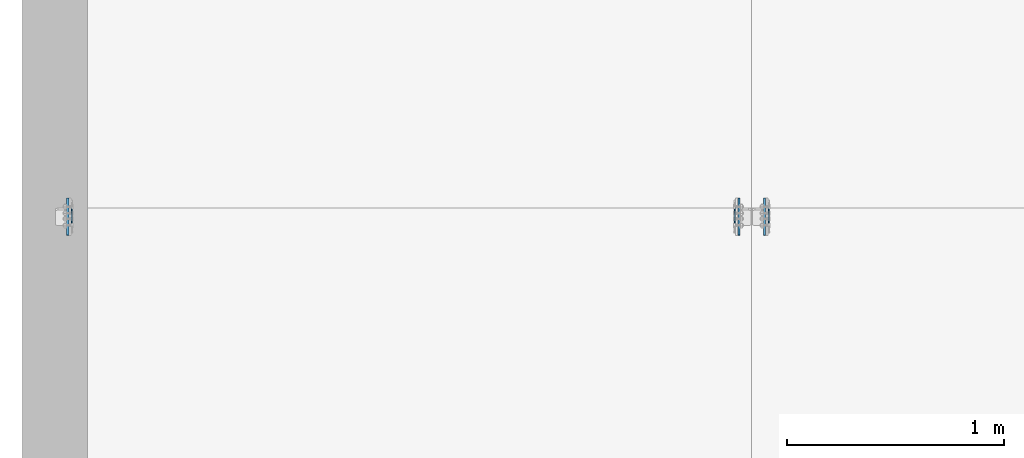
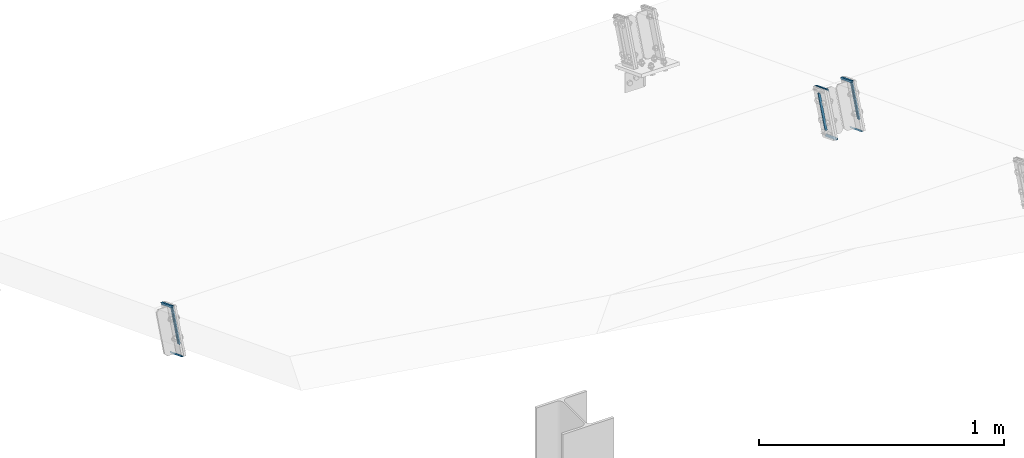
# One storey, part 12 of 72: 18 fasteners.
"""IFC4 building model written with IfcOpenShell, lengths in metres."""

from ifc_helpers import new_model, si_unit, frame, origin_with_axes, place, context, project, spatial, polyline, outline, extrude, type_object, element, save


model = new_model("IFC4")

# Units and contexts
model_context = context("Model", 3, precision=1e-05, world=origin_with_axes())
ifc_project = project(units=[si_unit("LENGTHUNIT", "METRE"), si_unit("AREAUNIT", "SQUARE_METRE"), si_unit("VOLUMEUNIT", "CUBIC_METRE"), si_unit("MASSUNIT", "GRAM", prefix="KILO"), si_unit("TIMEUNIT", "SECOND"), si_unit("PLANEANGLEUNIT", "RADIAN"), si_unit("SOLIDANGLEUNIT", "STERADIAN"), si_unit("THERMODYNAMICTEMPERATUREUNIT", "DEGREE_CELSIUS")], contexts=[model_context])

# Site, building, storey
placement_1 = place(None, origin_with_axes())
site = spatial("IfcSite", under=ifc_project, at=placement_1, Name="Italia", CompositionType="ELEMENT")
building = spatial("IfcBuilding", under=site, at=placement_1, Name="Uffici", CompositionType="ELEMENT")
storey = spatial("IfcBuildingStorey", under=building, at=placement_1, Name="Storey 0", CompositionType="ELEMENT", Elevation=0.0)

# Fasteners
fastener_type_1 = type_object("IfcFastenerType", Name="Collegamento -016_-017", PredefinedType="WELD")
placement_2 = place(placement_1, origin_with_axes())
fastener_1_placement = place(placement_2, origin_with_axes())
element("IfcFastener", 1, at=fastener_1_placement, inside=storey, type_object=fastener_type_1, Name="Collegamento -016_-017", context=model_context, shape_type="SweptSolid", body=[
    extrude(outline(polyline([(0.0, 0.0), (-0.00717336, 0.00695801), (0.0, 0.00695801), (0.0, 0.0)])), frame((0.07495, 3.21082, 5.80241), z_axis=(0.0, 0.361461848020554, 0.932386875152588), x_axis=(-1.0, 0.0, 0.0)), (0.0, 0.0, 1.0), 0.1591),
])
fastener_type_2 = type_object("IfcFastenerType", Name="Collegamento -016_-017", PredefinedType="WELD")
fastener_2_placement = place(placement_2, origin_with_axes())
element("IfcFastener", 2, at=fastener_2_placement, inside=storey, type_object=fastener_type_2, Name="Collegamento -016_-017", context=model_context, shape_type="SweptSolid", body=[
    extrude(outline(polyline([(0.0, 0.0), (0.00717336, -0.00695777), (0.0, -0.00695777), (0.0, 0.0)])), frame((0.07495, 3.25022, 5.95777), z_axis=(0.0, -0.361460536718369, -0.932387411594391), x_axis=(1.0, 0.0, 0.0)), (0.0, 0.0, 1.0), 0.1591),
])
fastener_type_3 = type_object("IfcFastenerType", Name="Collegamento -016_-017", PredefinedType="WELD")
fastener_3_placement = place(placement_2, origin_with_axes())
element("IfcFastener", 3, at=fastener_3_placement, inside=storey, type_object=fastener_type_3, Name="Collegamento -016_-017", context=model_context, shape_type="SweptSolid", body=[
    extrude(outline(polyline([(0.0, 0.0), (-0.00717336, 0.00695801), (0.0, 0.00695801), (0.0, 0.0)])), frame((0.07495, 3.21082, 5.80241), z_axis=(0.0, 0.361461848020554, 0.932386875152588), x_axis=(-1.0, 0.0, 0.0)), (0.0, 0.0, 1.0), 0.1591),
])
fastener_type_4 = type_object("IfcFastenerType", Name="Collegamento -016_-017", PredefinedType="WELD")
fastener_4_placement = place(placement_2, origin_with_axes())
element("IfcFastener", 4, at=fastener_4_placement, inside=storey, type_object=fastener_type_4, Name="Collegamento -016_-017", context=model_context, shape_type="SweptSolid", body=[
    extrude(outline(polyline([(0.0, 0.0), (0.00717336, -0.00695777), (0.0, -0.00695777), (0.0, 0.0)])), frame((0.07495, 3.25022, 5.95777), z_axis=(0.0, -0.361460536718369, -0.932387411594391), x_axis=(1.0, 0.0, 0.0)), (0.0, 0.0, 1.0), 0.1591),
])
fastener_type_5 = type_object("IfcFastenerType", Name="Collegamento -016_-017", PredefinedType="WELD")
fastener_5_placement = place(placement_2, origin_with_axes())
element("IfcFastener", 5, at=fastener_5_placement, inside=storey, type_object=fastener_type_5, Name="Collegamento -016_-017", context=model_context, shape_type="SweptSolid", body=[
    extrude(outline(polyline([(0.0, 0.0), (0.00937336, -0.00909185), (0.0, -0.00909185), (0.0, 0.0)])), frame((0.05495, 3.2371, 5.75861), z_axis=(0.0, -0.932386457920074, 0.361462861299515), x_axis=(1.0, 0.0, 0.0)), (0.0, 0.0, 1.0), 0.1001),
])
fastener_type_6 = type_object("IfcFastenerType", Name="Collegamento -016_-017", PredefinedType="WELD")
fastener_6_placement = place(placement_2, origin_with_axes())
element("IfcFastener", 6, at=fastener_6_placement, inside=storey, type_object=fastener_type_6, Name="Collegamento -016_-017", context=model_context, shape_type="SweptSolid", body=[
    extrude(outline(polyline([(0.0, 0.0), (-0.00937336, 0.00909233), (0.0, 0.00909233), (0.0, 0.0)])), frame((0.05495, 3.21675, 5.98305), z_axis=(0.0, 0.932386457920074, -0.361462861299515), x_axis=(-1.0, 0.0, 0.0)), (0.0, 0.0, 1.0), 0.1001),
])
fastener_type_7 = type_object("IfcFastenerType", Name="Collegamento -017_-016", PredefinedType="WELD")
fastener_7_placement = place(placement_2, origin_with_axes())
element("IfcFastener", 7, at=fastener_7_placement, inside=storey, type_object=fastener_type_7, Name="Collegamento -017_-016", context=model_context, shape_type="SweptSolid", body=[
    extrude(outline(polyline([(0.0, 0.0), (-0.00717354, 0.00695825), (0.0, 0.00695825), (0.0, 0.0)])), frame((3.13005, 3.26833, 5.95076), z_axis=(0.0, -0.361461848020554, -0.932386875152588), x_axis=(1.0, 0.0, 0.0)), (0.0, 0.0, 1.0), 0.1591),
])
fastener_type_8 = type_object("IfcFastenerType", Name="Collegamento -017_-016", PredefinedType="WELD")
fastener_8_placement = place(placement_2, origin_with_axes())
element("IfcFastener", 8, at=fastener_8_placement, inside=storey, type_object=fastener_type_8, Name="Collegamento -017_-016", context=model_context, shape_type="SweptSolid", body=[
    extrude(outline(polyline([(0.0, 0.0), (0.00717354, -0.00695825), (0.0, -0.00695825), (0.0, 0.0)])), frame((3.13005, 3.19271, 5.80943), z_axis=(0.0, 0.361460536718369, 0.932387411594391), x_axis=(-1.0, 0.0, 0.0)), (0.0, 0.0, 1.0), 0.1591),
])
fastener_type_9 = type_object("IfcFastenerType", Name="Collegamento -017_-016", PredefinedType="WELD")
fastener_9_placement = place(placement_2, origin_with_axes())
element("IfcFastener", 9, at=fastener_9_placement, inside=storey, type_object=fastener_type_9, Name="Collegamento -017_-016", context=model_context, shape_type="SweptSolid", body=[
    extrude(outline(polyline([(0.0, 0.0), (-0.00717354, 0.00695825), (0.0, 0.00695825), (0.0, 0.0)])), frame((3.13005, 3.26833, 5.95076), z_axis=(0.0, -0.361461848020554, -0.932386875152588), x_axis=(1.0, 0.0, 0.0)), (0.0, 0.0, 1.0), 0.1591),
])
fastener_type_10 = type_object("IfcFastenerType", Name="Collegamento -017_-016", PredefinedType="WELD")
fastener_10_placement = place(placement_2, origin_with_axes())
element("IfcFastener", 10, at=fastener_10_placement, inside=storey, type_object=fastener_type_10, Name="Collegamento -017_-016", context=model_context, shape_type="SweptSolid", body=[
    extrude(outline(polyline([(0.0, 0.0), (0.00717354, -0.00695825), (0.0, -0.00695825), (0.0, 0.0)])), frame((3.13005, 3.19271, 5.80943), z_axis=(0.0, 0.361460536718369, 0.932387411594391), x_axis=(-1.0, 0.0, 0.0)), (0.0, 0.0, 1.0), 0.1591),
])
fastener_type_11 = type_object("IfcFastenerType", Name="Collegamento -017_-016", PredefinedType="WELD")
fastener_11_placement = place(placement_2, origin_with_axes())
element("IfcFastener", 11, at=fastener_11_placement, inside=storey, type_object=fastener_type_11, Name="Collegamento -017_-016", context=model_context, shape_type="SweptSolid", body=[
    extrude(outline(polyline([(0.0, 0.0), (0.00937343, -0.00909185), (0.0, -0.00909185), (0.0, 0.0)])), frame((3.15005, 3.14377, 5.79479), z_axis=(0.0, 0.932386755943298, -0.36146205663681), x_axis=(-1.0, 0.0, 0.0)), (0.0, 0.0, 1.0), 0.1001),
])
fastener_type_12 = type_object("IfcFastenerType", Name="Collegamento -017_-016", PredefinedType="WELD")
fastener_12_placement = place(placement_2, origin_with_axes())
element("IfcFastener", 12, at=fastener_12_placement, inside=storey, type_object=fastener_type_12, Name="Collegamento -017_-016", context=model_context, shape_type="SweptSolid", body=[
    extrude(outline(polyline([(0.0, 0.0), (-0.00937343, 0.00909233), (0.0, 0.00909233), (0.0, 0.0)])), frame((3.15005, 3.31009, 5.94687), z_axis=(0.0, -0.932386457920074, 0.361462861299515), x_axis=(1.0, 0.0, 0.0)), (0.0, 0.0, 1.0), 0.1001),
])
fastener_type_13 = type_object("IfcFastenerType", Name="Collegamento -017_-018", PredefinedType="WELD")
fastener_13_placement = place(placement_2, origin_with_axes())
element("IfcFastener", 13, at=fastener_13_placement, inside=storey, type_object=fastener_type_13, Name="Collegamento -017_-018", context=model_context, shape_type="SweptSolid", body=[
    extrude(outline(polyline([(0.0, 0.0), (-0.00717354, 0.00695801), (0.0, 0.00695801), (0.0, 0.0)])), frame((3.27995, 3.21082, 5.80241), z_axis=(0.0, 0.361461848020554, 0.932386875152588), x_axis=(-1.0, 0.0, 0.0)), (0.0, 0.0, 1.0), 0.1591),
])
fastener_type_14 = type_object("IfcFastenerType", Name="Collegamento -017_-018", PredefinedType="WELD")
fastener_14_placement = place(placement_2, origin_with_axes())
element("IfcFastener", 14, at=fastener_14_placement, inside=storey, type_object=fastener_type_14, Name="Collegamento -017_-018", context=model_context, shape_type="SweptSolid", body=[
    extrude(outline(polyline([(0.0, 0.0), (0.00717354, -0.00695777), (0.0, -0.00695777), (0.0, 0.0)])), frame((3.27995, 3.25022, 5.95777), z_axis=(0.0, -0.361460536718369, -0.932387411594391), x_axis=(1.0, 0.0, 0.0)), (0.0, 0.0, 1.0), 0.1591),
])
fastener_type_15 = type_object("IfcFastenerType", Name="Collegamento -017_-018", PredefinedType="WELD")
fastener_15_placement = place(placement_2, origin_with_axes())
element("IfcFastener", 15, at=fastener_15_placement, inside=storey, type_object=fastener_type_15, Name="Collegamento -017_-018", context=model_context, shape_type="SweptSolid", body=[
    extrude(outline(polyline([(0.0, 0.0), (-0.00717354, 0.00695801), (0.0, 0.00695801), (0.0, 0.0)])), frame((3.27995, 3.21082, 5.80241), z_axis=(0.0, 0.361461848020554, 0.932386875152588), x_axis=(-1.0, 0.0, 0.0)), (0.0, 0.0, 1.0), 0.1591),
])
fastener_type_16 = type_object("IfcFastenerType", Name="Collegamento -017_-018", PredefinedType="WELD")
fastener_16_placement = place(placement_2, origin_with_axes())
element("IfcFastener", 16, at=fastener_16_placement, inside=storey, type_object=fastener_type_16, Name="Collegamento -017_-018", context=model_context, shape_type="SweptSolid", body=[
    extrude(outline(polyline([(0.0, 0.0), (0.00717354, -0.00695777), (0.0, -0.00695777), (0.0, 0.0)])), frame((3.27995, 3.25022, 5.95777), z_axis=(0.0, -0.361460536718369, -0.932387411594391), x_axis=(1.0, 0.0, 0.0)), (0.0, 0.0, 1.0), 0.1591),
])
fastener_type_17 = type_object("IfcFastenerType", Name="Collegamento -017_-018", PredefinedType="WELD")
fastener_17_placement = place(placement_2, origin_with_axes())
element("IfcFastener", 17, at=fastener_17_placement, inside=storey, type_object=fastener_type_17, Name="Collegamento -017_-018", context=model_context, shape_type="SweptSolid", body=[
    extrude(outline(polyline([(0.0, 0.0), (0.00937343, -0.00909185), (0.0, -0.00909185), (0.0, 0.0)])), frame((3.25995, 3.2371, 5.75861), z_axis=(0.0, -0.932386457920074, 0.361462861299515), x_axis=(1.0, 0.0, 0.0)), (0.0, 0.0, 1.0), 0.1001),
])
fastener_type_18 = type_object("IfcFastenerType", Name="Collegamento -017_-018", PredefinedType="WELD")
fastener_18_placement = place(placement_2, origin_with_axes())
element("IfcFastener", 18, at=fastener_18_placement, inside=storey, type_object=fastener_type_18, Name="Collegamento -017_-018", context=model_context, shape_type="SweptSolid", body=[
    extrude(outline(polyline([(0.0, 0.0), (-0.00937343, 0.00909233), (0.0, 0.00909233), (0.0, 0.0)])), frame((3.25995, 3.21675, 5.98305), z_axis=(0.0, 0.932386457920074, -0.361462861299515), x_axis=(-1.0, 0.0, 0.0)), (0.0, 0.0, 1.0), 0.1001),
])

save(model, "model.ifc")
